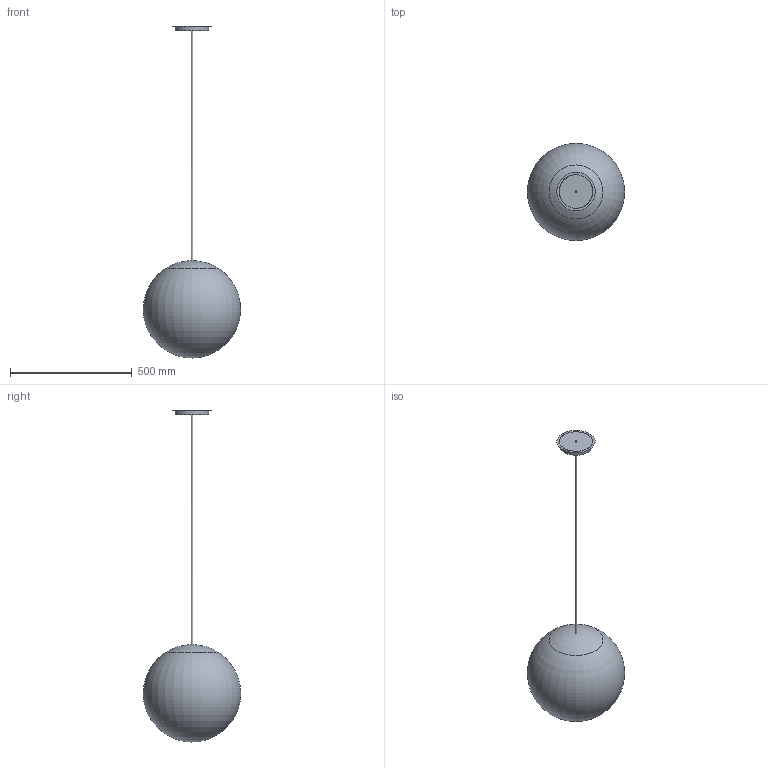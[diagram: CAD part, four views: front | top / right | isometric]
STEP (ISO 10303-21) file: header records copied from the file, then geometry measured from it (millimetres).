
FILE_DESCRIPTION(('STEP AP214'),'1');
FILE_NAME('Muna 400.stp','2018-12-19T00:10:54',(' '),(' '),'Spatial InterOp 3D',' ',' ');
FILE_SCHEMA(('AUTOMOTIVE_DESIGN { 1 0 10303 214 1 1 1 1 }'));
Length unit declared in the file: millimetre
Products named in the file (1): Bry_a
Bounding box: 399.87 x 399.87 x 1364.48 mm (x, y, z)
Volume: 33808278.2 mm3; surface area: 658757.7 mm2
Topology: 3 solids, 6 shells, 14 faces, 40 edges, 32 vertices
Faces by surface type: bspline 14
Entity records: 5636 total; most frequent: CARTESIAN_POINT 5358, ORIENTED_EDGE 45, EDGE_CURVE 28, VERTEX_POINT 28, DIRECTION 24, EDGE_LOOP 23, B_SPLINE_CURVE_WITH_KNOTS 22, B_SPLINE_SURFACE_WITH_KNOTS 14
